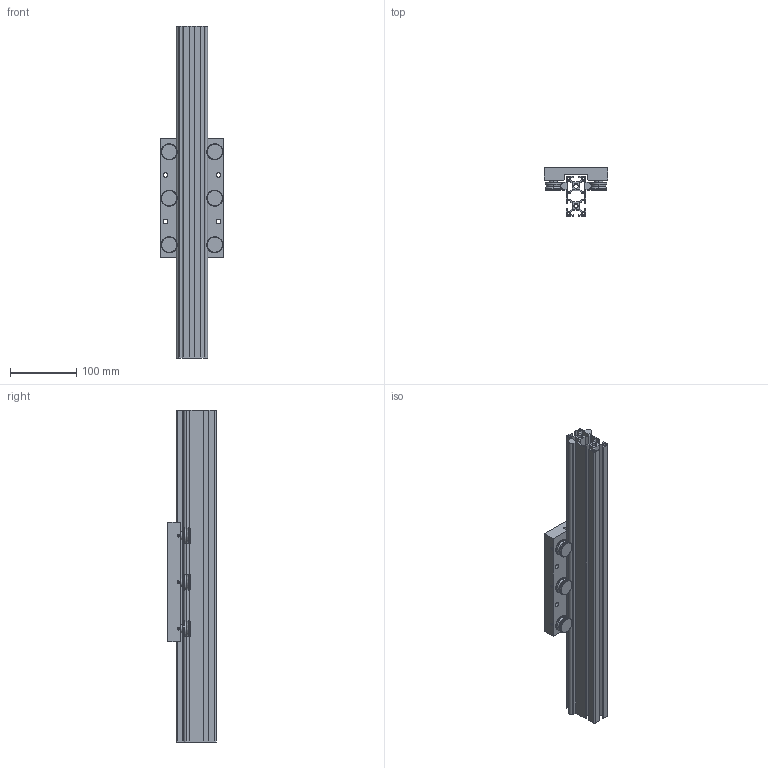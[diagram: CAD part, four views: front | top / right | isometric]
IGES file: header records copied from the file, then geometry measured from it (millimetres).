
Start section: SolidWorks IGES file using analytic representation for surfaces
Bounding box: 96 x 73 x 500 mm (x, y, z)
Surface area: 360788.6 mm2 (no closed solid volume)
Topology: 0 solids, 0 shells, 501 faces, 7454 edges, 7454 vertices
Faces by surface type: bspline 254, revolution 247
